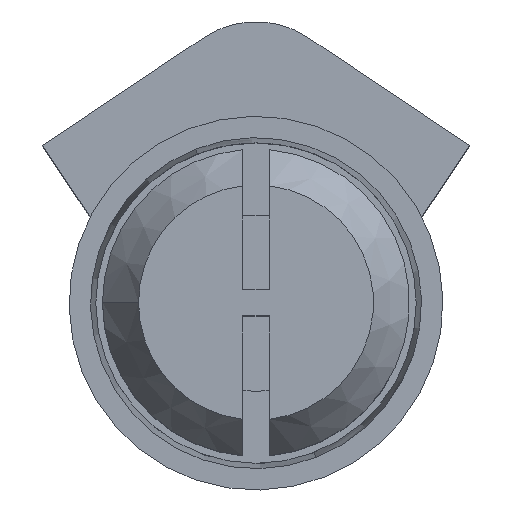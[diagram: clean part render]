
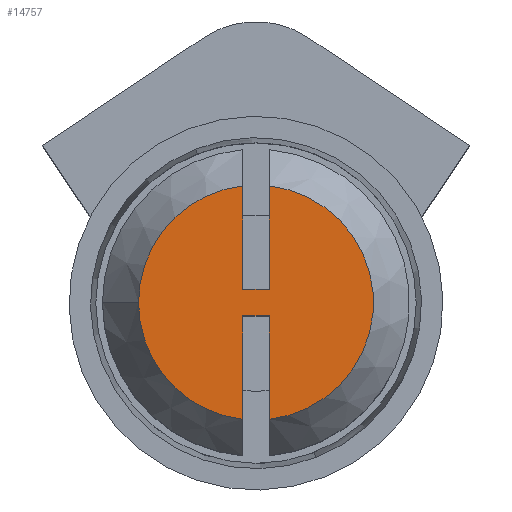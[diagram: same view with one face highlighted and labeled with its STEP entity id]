
A CAD part, top view. The second image highlights one B-rep face of the part: STEP entity #14757.
In plain terms, the highlighted planar face has unit normal (0, 0, 1) as drawn and (1, 0, 0) by its records, which use the part's own axes.
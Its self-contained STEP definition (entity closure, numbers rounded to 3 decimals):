
#798 = VECTOR ( 'NONE', #13855, 1000. ) ;
#852 = CARTESIAN_POINT ( 'NONE',  ( 23., 0.5, -0.5 ) ) ;
#925 = CARTESIAN_POINT ( 'NONE',  ( 23., 4.371, -0.5 ) ) ;
#1081 = AXIS2_PLACEMENT_3D ( 'NONE', #8136, #8053, #3408 ) ;
#1207 = AXIS2_PLACEMENT_3D ( 'NONE', #10648, #11799, #2416 ) ;
#1414 = CARTESIAN_POINT ( 'NONE',  ( 23., 4.4, -0.5 ) ) ;
#1444 = DIRECTION ( 'NONE',  ( 0., -1., 0. ) ) ;
#1664 = CIRCLE ( 'NONE', #4338, 4.4 ) ;
#1942 = LINE ( 'NONE', #10327, #798 ) ;
#2293 = LINE ( 'NONE', #8069, #3924 ) ;
#2297 = ORIENTED_EDGE ( 'NONE', *, *, #11331, .T. ) ;
#2310 = CIRCLE ( 'NONE', #1081, 4.4 ) ;
#2416 = DIRECTION ( 'NONE',  ( 0., 0., 1. ) ) ;
#2474 = CARTESIAN_POINT ( 'NONE',  ( 23., 0., 4.4 ) ) ;
#2483 = ORIENTED_EDGE ( 'NONE', *, *, #7707, .T. ) ;
#2609 = CARTESIAN_POINT ( 'NONE',  ( 23., -4.371, 0.5 ) ) ;
#3408 = DIRECTION ( 'NONE',  ( 0., 0., 1. ) ) ;
#3512 = DIRECTION ( 'NONE',  ( 0., 0., -1. ) ) ;
#3540 = EDGE_CURVE ( 'NONE', #13926, #7351, #2293, .T. ) ;
#3586 = LINE ( 'NONE', #9518, #11807 ) ;
#3924 = VECTOR ( 'NONE', #12749, 1000. ) ;
#4338 = AXIS2_PLACEMENT_3D ( 'NONE', #5392, #12501, #10127 ) ;
#4719 = CARTESIAN_POINT ( 'NONE',  ( 23., 4.4, 0.5 ) ) ;
#4759 = EDGE_CURVE ( 'NONE', #13926, #8652, #6524, .T. ) ;
#5026 = CARTESIAN_POINT ( 'NONE',  ( 23., -0.5, -0.5 ) ) ;
#5080 = VERTEX_POINT ( 'NONE', #10049 ) ;
#5130 = EDGE_CURVE ( 'NONE', #8652, #6032, #1664, .T. ) ;
#5392 = CARTESIAN_POINT ( 'NONE',  ( 23., 0., 0. ) ) ;
#5833 = FACE_OUTER_BOUND ( 'NONE', #8215, .T. ) ;
#5870 = DIRECTION ( 'NONE',  ( 0., 0., 1. ) ) ;
#5894 = VECTOR ( 'NONE', #13252, 1000. ) ;
#5916 = ORIENTED_EDGE ( 'NONE', *, *, #3540, .T. ) ;
#5948 = CARTESIAN_POINT ( 'NONE',  ( 23., -0.5, 0.5 ) ) ;
#6030 = CARTESIAN_POINT ( 'NONE',  ( 23., 4.371, 0.5 ) ) ;
#6032 = VERTEX_POINT ( 'NONE', #6030 ) ;
#6185 = ORIENTED_EDGE ( 'NONE', *, *, #13089, .F. ) ;
#6524 = CIRCLE ( 'NONE', #11903, 4.4 ) ;
#6646 = EDGE_CURVE ( 'NONE', #7134, #11637, #1942, .T. ) ;
#6940 = LINE ( 'NONE', #5948, #8589 ) ;
#7006 = ORIENTED_EDGE ( 'NONE', *, *, #13624, .T. ) ;
#7134 = VERTEX_POINT ( 'NONE', #852 ) ;
#7239 = VERTEX_POINT ( 'NONE', #925 ) ;
#7351 = VERTEX_POINT ( 'NONE', #11526 ) ;
#7707 = EDGE_CURVE ( 'NONE', #7351, #9159, #6940, .T. ) ;
#8052 = ORIENTED_EDGE ( 'NONE', *, *, #4759, .F. ) ;
#8053 = DIRECTION ( 'NONE',  ( -1., 0., 0. ) ) ;
#8069 = CARTESIAN_POINT ( 'NONE',  ( 23., 4.4, 0.5 ) ) ;
#8074 = ORIENTED_EDGE ( 'NONE', *, *, #6646, .T. ) ;
#8136 = CARTESIAN_POINT ( 'NONE',  ( 23., 0., 0. ) ) ;
#8215 = EDGE_LOOP ( 'NONE', ( #8052, #5916, #2483, #2297, #6185, #7006, #8074, #12272, #11804 ) ) ;
#8398 = DIRECTION ( 'NONE',  ( -1., 0., 0. ) ) ;
#8589 = VECTOR ( 'NONE', #3512, 1000. ) ;
#8621 = VECTOR ( 'NONE', #14043, 1000. ) ;
#8652 = VERTEX_POINT ( 'NONE', #2474 ) ;
#9159 = VERTEX_POINT ( 'NONE', #5026 ) ;
#9259 = PLANE ( 'NONE',  #1207 ) ;
#9359 = LINE ( 'NONE', #4719, #8621 ) ;
#9518 = CARTESIAN_POINT ( 'NONE',  ( 23., 4.4, -0.5 ) ) ;
#10049 = CARTESIAN_POINT ( 'NONE',  ( 23., -4.371, -0.5 ) ) ;
#10127 = DIRECTION ( 'NONE',  ( 0., 0., 1. ) ) ;
#10327 = CARTESIAN_POINT ( 'NONE',  ( 23., 0.5, 0.5 ) ) ;
#10648 = CARTESIAN_POINT ( 'NONE',  ( 23., 4.4, 0. ) ) ;
#10849 = EDGE_CURVE ( 'NONE', #11637, #6032, #9359, .T. ) ;
#11331 = EDGE_CURVE ( 'NONE', #9159, #5080, #3586, .T. ) ;
#11526 = CARTESIAN_POINT ( 'NONE',  ( 23., -0.5, 0.5 ) ) ;
#11637 = VERTEX_POINT ( 'NONE', #13568 ) ;
#11799 = DIRECTION ( 'NONE',  ( -1., 0., 0. ) ) ;
#11804 = ORIENTED_EDGE ( 'NONE', *, *, #5130, .F. ) ;
#11807 = VECTOR ( 'NONE', #1444, 1000. ) ;
#11903 = AXIS2_PLACEMENT_3D ( 'NONE', #12833, #8398, #5870 ) ;
#12272 = ORIENTED_EDGE ( 'NONE', *, *, #10849, .T. ) ;
#12501 = DIRECTION ( 'NONE',  ( -1., 0., 0. ) ) ;
#12749 = DIRECTION ( 'NONE',  ( 0., 1., 0. ) ) ;
#12833 = CARTESIAN_POINT ( 'NONE',  ( 23., 0., 0. ) ) ;
#13089 = EDGE_CURVE ( 'NONE', #7239, #5080, #2310, .T. ) ;
#13252 = DIRECTION ( 'NONE',  ( 0., -1., 0. ) ) ;
#13393 = LINE ( 'NONE', #1414, #5894 ) ;
#13568 = CARTESIAN_POINT ( 'NONE',  ( 23., 0.5, 0.5 ) ) ;
#13624 = EDGE_CURVE ( 'NONE', #7239, #7134, #13393, .T. ) ;
#13855 = DIRECTION ( 'NONE',  ( 0., 0., 1. ) ) ;
#13926 = VERTEX_POINT ( 'NONE', #2609 ) ;
#14043 = DIRECTION ( 'NONE',  ( 0., 1., 0. ) ) ;
#14757 = ADVANCED_FACE ( 'NONE', ( #5833 ), #9259, .F. ) ;
